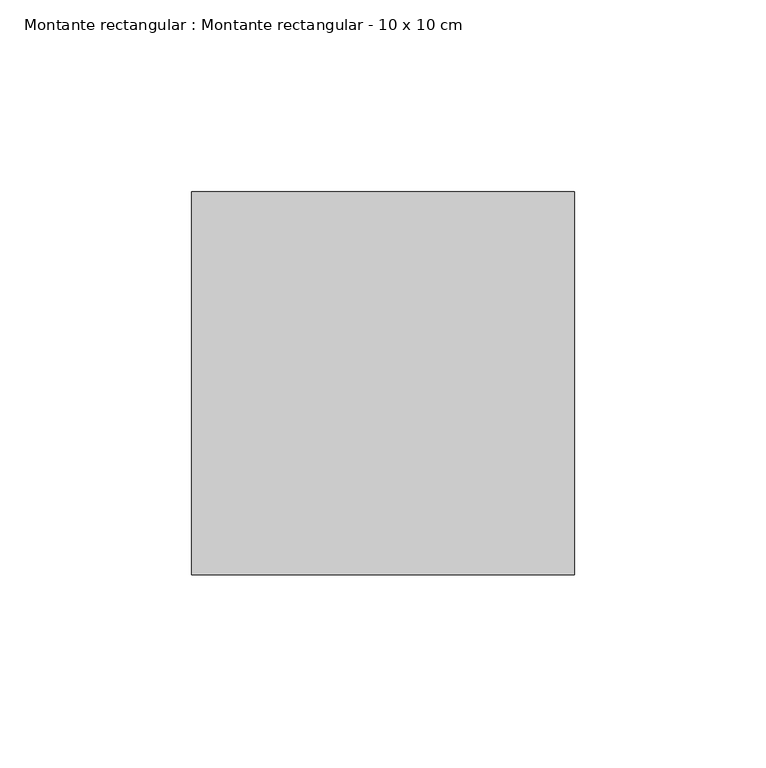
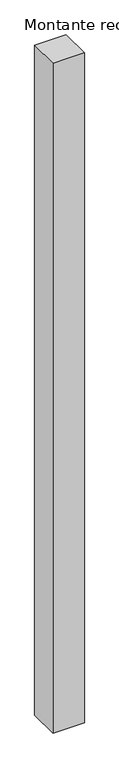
"""IFC4 building model written with IfcOpenShell, lengths in millimetres: member geometry, Montante rectangular : Montante rectangular - 10 x 10 cm."""

from ifc_helpers import new_model, si_unit, frame, origin, place, context, project, spatial, polyline, outline, extrude, source, transform, mapped, element, save


def montante_rectangular_montante_rectangular_10_x_10_cm_fbaa0f1d(model_context):
    return source(origin(), model_context, "Body", "SweptSolid", [
        extrude(outline(polyline([(-100.0, 50.0), (0.0, 50.0), (0.0, -50.0), (-100.0, -50.0), (-100.0, 50.0)])), frame((0.0, 0.0, -2250.0), z_axis=(0.0, 0.0, 1.0), x_axis=(1.0, 0.0, 0.0)), (0.0, 0.0, 1.0), 2250.0),
    ])


if __name__ == "__main__":
    model = new_model("IFC4")
    model_context = context("Model", 3, world=origin())
    ifc_project = project(units=[si_unit("LENGTHUNIT", "METRE", prefix="MILLI")], contexts=[model_context])
    site = spatial("IfcSite", under=ifc_project)
    building = spatial("IfcBuilding", under=site)
    placement = place(None, origin())
    montante_rectangular_montante_rectangular_10_x_10_cm_shape = montante_rectangular_montante_rectangular_10_x_10_cm_fbaa0f1d(model_context)
    element("IfcMember", 1, ObjectType="Montante rectangular : Montante rectangular - 10 x 10 cm", at=placement, inside=building, context=model_context, shape_type="MappedRepresentation", body=[
        mapped(montante_rectangular_montante_rectangular_10_x_10_cm_shape, transform((0.0, 0.0, 0.0), x_axis=(1.0, 0.0, 0.0), y_axis=(0.0, 1.0, 0.0), z_axis=(0.0, 0.0, 1.0))),
    ])
    save(model, "model.ifc")
